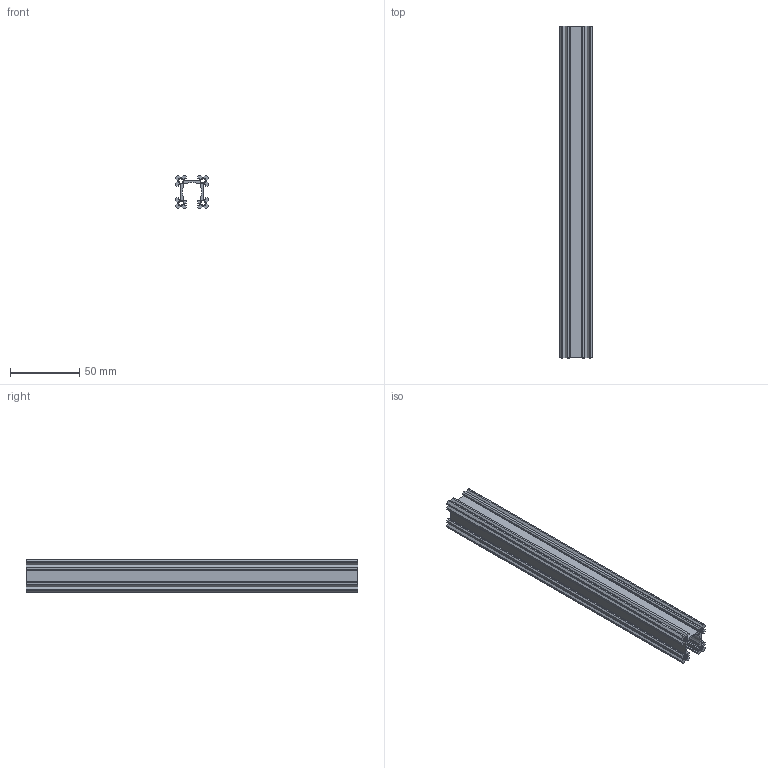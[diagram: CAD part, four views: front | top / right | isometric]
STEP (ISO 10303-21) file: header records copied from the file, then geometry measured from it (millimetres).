
FILE_DESCRIPTION (( 'STEP AP203' ), '1' );
FILE_NAME ('1118-0024-0240.STEP', '2017-09-21T18:58:39', ( '' ), ( '' ), 'SwSTEP 2.0', 'SolidWorks 2016', '' );
FILE_SCHEMA (( 'CONFIG_CONTROL_DESIGN' ));
Length unit declared in the file: millimetre
Products named in the file (1): 1118-0024-0240
Bounding box: 24 x 240 x 24 mm (x, y, z)
Volume: 44709.2 mm3; surface area: 56833.3 mm2
Topology: 1 solids, 1 shells, 801 faces, 2389 edges, 1590 vertices
Faces by surface type: cylinder 676, plane 89, cone 20, bspline 16
Entity records: 49920 total; most frequent: CARTESIAN_POINT 32205, ORIENTED_EDGE 4778, DIRECTION 2745, EDGE_CURVE 2389, VERTEX_POINT 1590, VECTOR 925, LINE 925, AXIS2_PLACEMENT_3D 910
